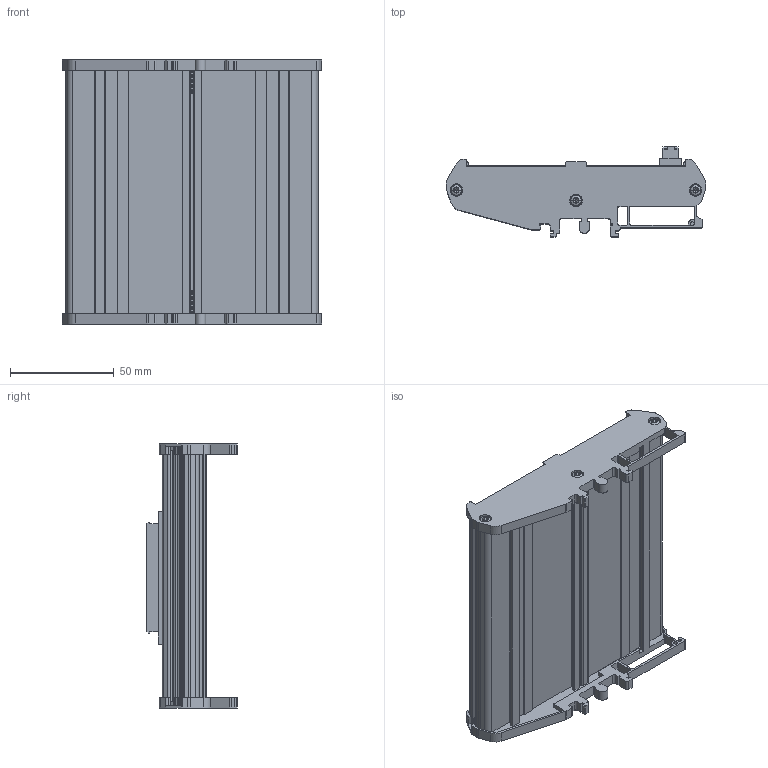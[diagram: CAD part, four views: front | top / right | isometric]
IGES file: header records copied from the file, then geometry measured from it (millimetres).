
Start section:  PTC IGES file: cd_assy-tbx-68.igs
Global section: file name: cd_assy-tbx-68.igs; native system: Pro/ENGINEER by Parametric Technology Corporation; preprocessor: 2006080; author: scarrasc; organization: Unknown; date: 080317.133404; units: inch
Bounding box: 125.4 x 43.65 x 127.5 mm (x, y, z)
Surface area: 97084.6 mm2 (no closed solid volume)
Topology: 0 solids, 0 shells, 1424 faces, 7720 edges, 7696 vertices
Faces by surface type: revolution 728, bspline 696
